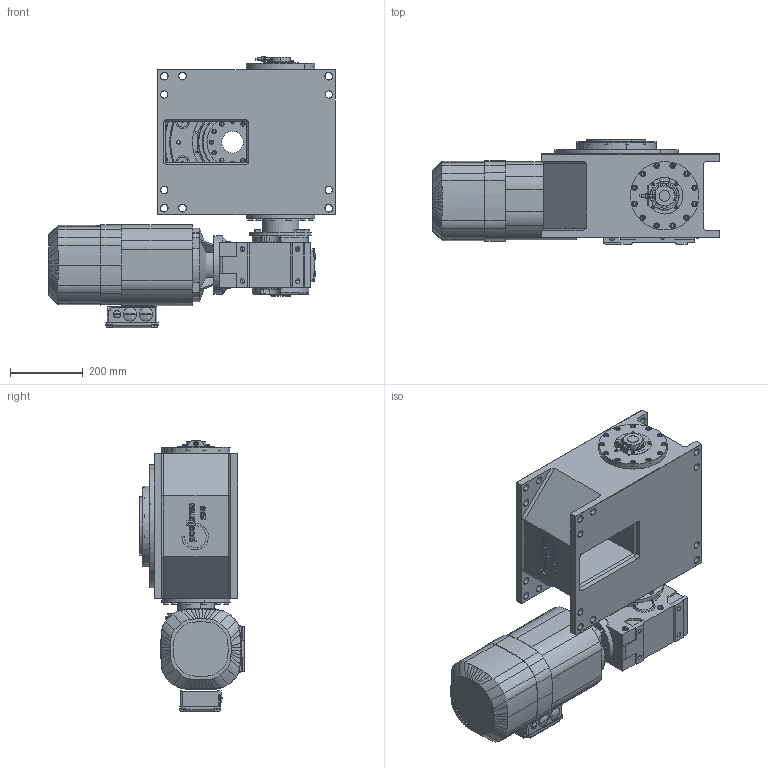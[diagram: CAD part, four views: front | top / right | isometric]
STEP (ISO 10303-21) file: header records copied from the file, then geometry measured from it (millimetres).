
FILE_DESCRIPTION (( 'STEP AP214' ), '1' );
FILE_NAME ('M340_SEW_KA57DRE112M4BE5_D1_08.STEP', '2020-06-17T12:13:40', ( '' ), ( '' ), 'SwSTEP 2.0', 'SolidWorks 2020', '' );
FILE_SCHEMA (( 'AUTOMOTIVE_DESIGN' ));
Length unit declared in the file: millimetre
Products named in the file (1): M340_SEW_KA57DRE112M4BE5_D1_08
Bounding box: 786 x 286 x 743.97 mm (x, y, z)
Surface area: 1861694.8 mm2 (no closed solid volume)
Topology: 0 solids, 122 shells, 1682 faces, 5169 edges, 3479 vertices
Faces by surface type: plane 804, cylinder 479, cone 185, torus 106, bspline 102, sphere 6
Entity records: 83383 total; most frequent: CARTESIAN_POINT 19205, DIRECTION 9720, ORIENTED_EDGE 8500, EDGE_CURVE 5129, VERTEX_POINT 3479, AXIS2_PLACEMENT_3D 3468, VECTOR 2784, LINE 2784
